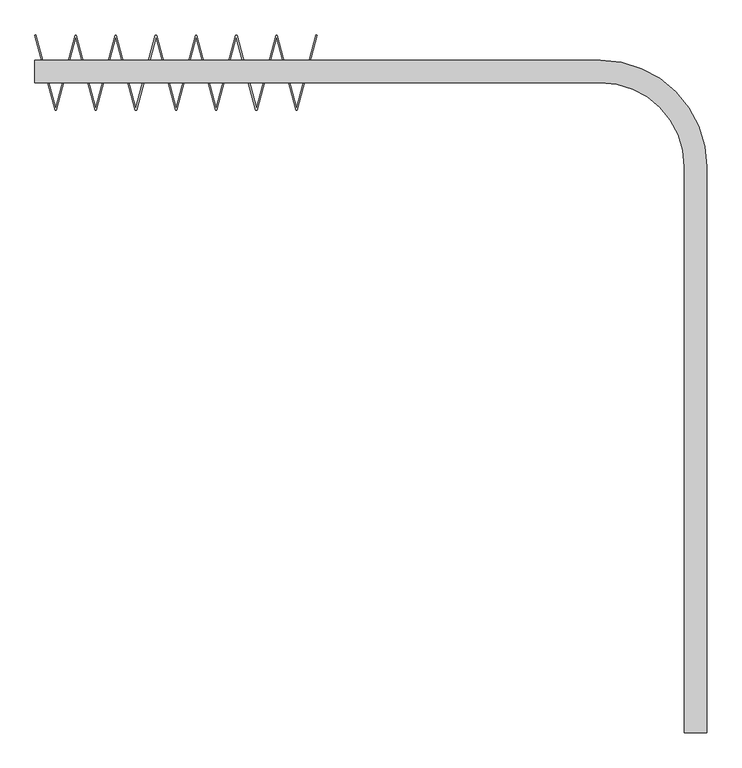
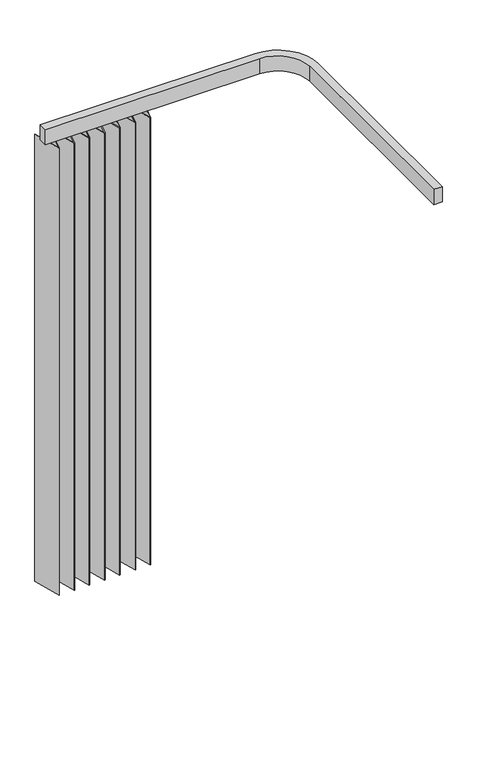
"""IFC4 building model written with IfcOpenShell, lengths in millimetres: furniture geometry, BIMHealth-Curtain_Doc_M-LOD2A-v1 : BIMHealth-Curtain_Doc_M-LOD2A-v1."""

import ifcopenshell
import ifcopenshell.guid

model = None  # the IFC model being written
_history = None  # IfcOwnerHistory: only IFC2X3 demands one
_inside = {}  # id of a spatial element -> (the spatial element, [elements in it])
_under = {}  # id of a project, library or spatial element -> (it, [spatial elements below it])
_declared = {}  # id of a project -> (the project, [libraries it declares])
_typed = {}  # id of a type object -> (the type object, [elements of that type])
_made_of = {}  # id of a material, layer set ... -> (it, [elements and type objects made of it])


def new_model(schema):
    """Start an empty IFC model of exactly this schema.

    Asked for "IFC4X3", IfcOpenShell would pick the latest addendum, in which some entities
    have other attributes; the version numbers below select the first issue.
    IFC2X3 requires an IfcOwnerHistory on every rooted entity: one is made here for all.
    """
    global model, _history
    if schema == "IFC4X3":
        model = ifcopenshell.file(schema_version=(4, 3, 0, 0))
    else:
        model = ifcopenshell.file(schema=schema)
    _inside.clear()
    _under.clear()
    _declared.clear()
    _typed.clear()
    _made_of.clear()
    _history = None
    if model.schema == "IFC2X3":
        org = make("IfcOrganization", Name="unknown")
        user = make(
            "IfcPersonAndOrganization",
            ThePerson=make("IfcPerson", FamilyName="unknown"),
            TheOrganization=org,
        )
        app = make(
            "IfcApplication",
            ApplicationDeveloper=org,
            Version="unknown",
            ApplicationFullName="unknown",
            ApplicationIdentifier="unknown",
        )
        _history = make(
            "IfcOwnerHistory",
            OwningUser=user,
            OwningApplication=app,
            ChangeAction="ADDED",
            CreationDate=0,
        )
    return model


def make(cls, **values):
    """One entity of the class cls with the attributes given. An attribute that is None is left unset."""
    return model.create_entity(
        cls, **{name: value for name, value in values.items() if value is not None}
    )


def rooted(cls, **values):
    """An entity with a GlobalId (a new one), such as an element, a storey or a relation."""
    return make(cls, GlobalId=ifcopenshell.guid.new(), OwnerHistory=_history, **values)


def si_unit(unit_type, name, prefix=None):
    """IfcSIUnit, for example si_unit("LENGTHUNIT", "METRE", prefix="MILLI")."""
    return make("IfcSIUnit", UnitType=unit_type, Prefix=prefix, Name=name)


def assignment(units):
    """IfcUnitAssignment: the units of a project."""
    return None if units is None else make("IfcUnitAssignment", Units=units)


def point(xyz):
    """IfcCartesianPoint."""
    return None if xyz is None else make("IfcCartesianPoint", Coordinates=xyz)


def direction(xyz):
    """IfcDirection."""
    return None if xyz is None else make("IfcDirection", DirectionRatios=xyz)


def frame(location, z_axis=None, x_axis=None):
    """IfcAxis2Placement3D, a coordinate frame: its origin and axes. An axis left out is left unset."""
    return make(
        "IfcAxis2Placement3D",
        Location=point(location),
        Axis=direction(z_axis),
        RefDirection=direction(x_axis),
    )


def frame_2d(location, x_axis=None):
    """IfcAxis2Placement2D, a coordinate frame in the plane: its origin and x axis."""
    return make(
        "IfcAxis2Placement2D", Location=point(location), RefDirection=direction(x_axis)
    )


def origin():
    """The frame at (0, 0, 0) with its axes left unset."""
    return frame((0.0, 0.0, 0.0))


def place(relative_to, where):
    """IfcLocalPlacement: puts the frame where relative to a parent placement (None: the world)."""
    return make(
        "IfcLocalPlacement", PlacementRelTo=relative_to, RelativePlacement=where
    )


def context(
    kind, dimensions, precision=None, world=None, true_north=None, identifier=None
):
    """IfcGeometricRepresentationContext, for example the 3D "Model" context."""
    return make(
        "IfcGeometricRepresentationContext",
        ContextIdentifier=identifier,
        ContextType=kind,
        CoordinateSpaceDimension=dimensions,
        Precision=precision,
        WorldCoordinateSystem=world,
        TrueNorth=true_north,
    )


def project(units=None, contexts=None):
    """IfcProject with its units and contexts."""
    return rooted(
        "IfcProject",
        Name="project",
        RepresentationContexts=contexts,
        UnitsInContext=assignment(units),
    )


def spatial(cls, under=None, at=None, **own):
    """A site, building, storey or space (cls), placed at a placement, below another one or the project."""
    s = rooted(cls, ObjectPlacement=at, **own)
    if under is not None:
        _under.setdefault(under.id(), (under, []))[1].append(s)
    return s


def polyline(points):
    """IfcPolyline through the points."""
    return make("IfcPolyline", Points=[point(p) for p in points])


def circle_curve(where, radius):
    """IfcCircle in the frame where."""
    return make("IfcCircle", Position=where, Radius=radius)


def trimmed(basis, trim1, trim2, sense, master):
    """IfcTrimmedCurve: the piece of a basis curve between two trims."""
    return make(
        "IfcTrimmedCurve",
        BasisCurve=basis,
        Trim1=trim1,
        Trim2=trim2,
        SenseAgreement=sense,
        MasterRepresentation=master,
    )


def segment(curve, same_sense, transition):
    """IfcCompositeCurveSegment."""
    return make(
        "IfcCompositeCurveSegment",
        Transition=transition,
        SameSense=same_sense,
        ParentCurve=curve,
    )


def composite_curve(segments, self_intersect=None):
    """IfcCompositeCurve: segments joined end to end."""
    return make("IfcCompositeCurve", Segments=segments, SelfIntersect=self_intersect)


def outline(outer, holes=None, kind="AREA"):
    """IfcArbitraryClosedProfileDef: a profile drawn as a closed curve; with holes, ...WithVoids."""
    if holes is None:
        return make("IfcArbitraryClosedProfileDef", ProfileType=kind, OuterCurve=outer)
    return make(
        "IfcArbitraryProfileDefWithVoids",
        ProfileType=kind,
        OuterCurve=outer,
        InnerCurves=holes,
    )


def extrude(swept, where, along, depth):
    """IfcExtrudedAreaSolid: the profile swept, set in the frame where, extruded along a direction by depth."""
    return make(
        "IfcExtrudedAreaSolid",
        SweptArea=swept,
        Position=where,
        ExtrudedDirection=direction(along),
        Depth=depth,
    )


def shape(context_of_items, identifier, shape_type, items):
    """IfcShapeRepresentation: the items that make up one representation, for example the "Body"."""
    return make(
        "IfcShapeRepresentation",
        ContextOfItems=context_of_items,
        RepresentationIdentifier=identifier,
        RepresentationType=shape_type,
        Items=items,
    )


def source(mapping_origin, context_of_items, identifier, shape_type, items):
    """IfcRepresentationMap: a shape defined once, which mapped items show again and again."""
    return make(
        "IfcRepresentationMap",
        MappingOrigin=mapping_origin,
        MappedRepresentation=shape(context_of_items, identifier, shape_type, items),
    )


def transform(
    local_origin,
    x_axis=None,
    y_axis=None,
    z_axis=None,
    scale=None,
    scale2=None,
    scale3=None,
    uniform=True,
):
    """IfcCartesianTransformationOperator3D, or its non-uniform kind. x_axis, y_axis, z_axis: its Axis1, 2, 3."""
    if uniform:
        return make(
            "IfcCartesianTransformationOperator3D",
            Axis1=direction(x_axis),
            Axis2=direction(y_axis),
            LocalOrigin=point(local_origin),
            Scale=scale,
            Axis3=direction(z_axis),
        )
    return make(
        "IfcCartesianTransformationOperator3DnonUniform",
        Axis1=direction(x_axis),
        Axis2=direction(y_axis),
        LocalOrigin=point(local_origin),
        Scale=scale,
        Axis3=direction(z_axis),
        Scale2=scale2,
        Scale3=scale3,
    )


def mapped(mapping_source, mapping_target):
    """IfcMappedItem: shows the shape of a source again, moved by a transform."""
    return make(
        "IfcMappedItem", MappingSource=mapping_source, MappingTarget=mapping_target
    )


def made_of(thing, what):
    """Note that an element or type object is made of a material, layer set ...; save() writes the relation."""
    if what is not None:
        _made_of.setdefault(what.id(), (what, []))[1].append(thing)
    return thing


def element(
    cls,
    number,
    at=None,
    inside=None,
    cuts=None,
    type_object=None,
    material=None,
    context=None,
    identifier="Body",
    shape_type=None,
    held_by="IfcProductDefinitionShape",
    body=None,
    shapes=None,
    **own,
):
    """One element of the class cls, such as IfcWall. Its Tag is "e" and its number.

    at: its placement. inside: the storey or other place that contains it. cuts: it is an
    opening in that element (IfcRelVoidsElement). A single representation is given by context,
    identifier, shape_type and body (its items); several are given by shapes. held_by: the class
    of the entity that holds the representations. save() writes the other relations.
    """
    e = rooted(cls, Tag="e%d" % number, ObjectPlacement=at, **own)
    if body is not None:
        shapes = [shape(context, identifier, shape_type, body)]
    if shapes is not None:
        e.Representation = make(held_by, Representations=shapes)
    if inside is not None:
        _inside.setdefault(inside.id(), (inside, []))[1].append(e)
    if cuts is not None:
        rooted(
            "IfcRelVoidsElement", RelatingBuildingElement=cuts, RelatedOpeningElement=e
        )
    if type_object is not None:
        _typed.setdefault(type_object.id(), (type_object, []))[1].append(e)
    return made_of(e, material)


def aggregate(whole, parts):
    """IfcRelAggregates: a whole, such as a stair, and the parts it consists of."""
    return rooted("IfcRelAggregates", RelatingObject=whole, RelatedObjects=parts)


def save(model, path):
    """Write the relations noted so far, then the file.

    IfcRelAggregates (storeys below a building ...), IfcRelContainedInSpatialStructure (elements
    in a storey), IfcRelDefinesByType, IfcRelAssociatesMaterial and IfcRelDeclares: one each for
    every whole, place, type object, material and project.
    """
    for whole, parts in _under.values():
        aggregate(whole, parts)
    for where, things in _inside.values():
        rooted(
            "IfcRelContainedInSpatialStructure",
            RelatedElements=things,
            RelatingStructure=where,
        )
    for kind, things in _typed.values():
        rooted("IfcRelDefinesByType", RelatedObjects=things, RelatingType=kind)
    for what, things in _made_of.values():
        rooted("IfcRelAssociatesMaterial", RelatedObjects=things, RelatingMaterial=what)
    for by, libraries in _declared.values():
        rooted("IfcRelDeclares", RelatingContext=by, RelatedDefinitions=libraries)
    model.write(path)


def furniture_a9c8da33(model_context):
    return source(origin(), model_context, "Body", "SweptSolid", [
        extrude(outline(composite_curve([segment(polyline([(1010.0, -40.0), (0.0, -40.0), (0.0, 0.0), (1010.0, 0.0)]), True, "CONTINUOUS"), segment(trimmed(circle_curve(frame_2d((1010.0, -190.0)), 190.0), [point((1010.0, 0.0))], [point((1200.0, -190.0))], False, "CARTESIAN"), True, "CONTINUOUS"), segment(polyline([(1200.0, -190.0), (1200.0, -1200.0), (1160.0, -1200.0), (1160.0, -190.0)]), True, "CONTINUOUS"), segment(trimmed(circle_curve(frame_2d((1010.0, -190.0)), 150.0), [point((1160.0, -190.0))], [point((1010.0, -40.0))], True, "CARTESIAN"), True, "CONTINUOUS")], self_intersect=False)), frame((0.0, 0.0, 2325.0), z_axis=(0.0, 0.0, 1.0), x_axis=(1.0, 0.0, 0.0)), (0.0, 0.0, 1.0), 75.0),
        extrude(outline(polyline([(35.8630189, -88.8426086), (0.0, 45.0), (1.9318517, 45.5176381), (36.8982951, -84.9789053), (71.7260378, 45.0), (73.7965901, 45.0), (108.6243328, -84.9789053), (143.4520755, 45.0), (145.5226279, 45.0), (180.3503706, -84.9789053), (215.1781133, 45.0), (217.2486657, 45.0), (252.0764084, -84.9789053), (286.9041511, 45.0), (288.9747035, 45.0), (323.8024462, -84.9789053), (358.6301889, 45.0), (360.7007412, 45.0), (395.5284839, -84.9789053), (430.3562266, 45.0), (432.426779, 45.0), (467.2545217, -84.9789053), (502.2209651, 45.5176381), (504.1528168, 45.0), (468.2897979, -88.8426086), (466.2192455, -88.8426086), (431.3915028, 41.1362967), (396.5637601, -88.8426086), (394.4932078, -88.8426086), (359.665465, 41.1362967), (324.8377223, -88.8426086), (322.76717, -88.8426086), (287.9394273, 41.1362967), (253.1116846, -88.8426086), (251.0411322, -88.8426086), (216.2133895, 41.1362967), (181.3856468, -88.8426086), (179.3150944, -88.8426086), (144.4873517, 41.1362967), (109.659609, -88.8426086), (107.5890567, -88.8426086), (72.761314, 41.1362967), (37.9335712, -88.8426086), (35.8630189, -88.8426086)])), frame((0.0, 0.0, 100.0), z_axis=(0.0, 0.0, 1.0), x_axis=(1.0, 0.0, 0.0)), (0.0, 0.0, 1.0), 2225.0),
    ])


if __name__ == "__main__":
    model = new_model("IFC4")
    model_context = context("Model", 3, world=origin())
    ifc_project = project(units=[si_unit("LENGTHUNIT", "METRE", prefix="MILLI")], contexts=[model_context])
    site = spatial("IfcSite", under=ifc_project)
    building = spatial("IfcBuilding", under=site)
    placement = place(None, origin())
    furniture_shape = furniture_a9c8da33(model_context)
    element("IfcFurniture", 1, ObjectType="BIMHealth-Curtain_Doc_M-LOD2A-v1 : BIMHealth-Curtain_Doc_M-LOD2A-v1", at=placement, inside=building, context=model_context, shape_type="MappedRepresentation", body=[
        mapped(furniture_shape, transform((0.0, 0.0, 0.0), x_axis=(1.0, 0.0, 0.0), y_axis=(0.0, 1.0, 0.0), z_axis=(0.0, 0.0, 1.0))),
    ])
    save(model, "model.ifc")
